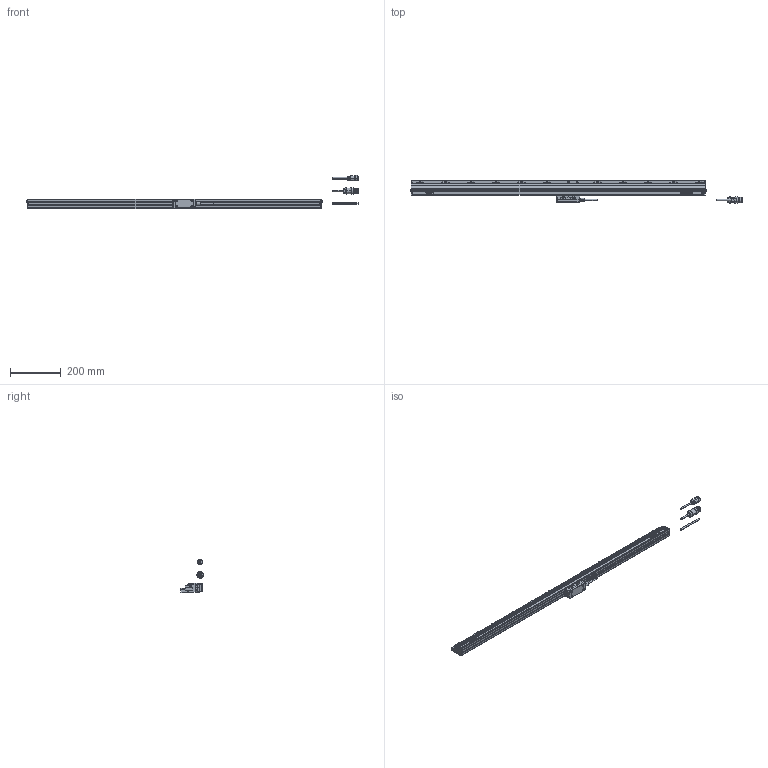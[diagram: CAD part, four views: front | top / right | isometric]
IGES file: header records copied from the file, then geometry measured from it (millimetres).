
Start section: Elysium IGES Interface
Global section: file name: 66H\\Utsu119s\kiyo_cad\data\3D\AT402E\HP掲載用_201708\AT402E-1040.igs; native system: Creo Elements/Direct Modeling 18.1B  29-Sep-2012; preprocessor: Creo Element/Direct IGES_3D V2.2; author: Unknown; organization: Unknown; date: 20180221.115914; units: millimetre
Bounding box: 1309.63 x 90 x 130.25 mm (x, y, z)
Volume: 1976459 mm3; surface area: 263753.9 mm2
Topology: 5 solids, 5 shells, 1259 faces, 3648 edges, 2467 vertices
Faces by surface type: bspline 1259
